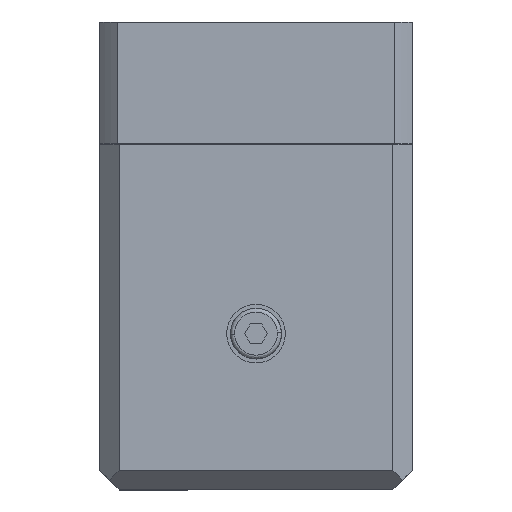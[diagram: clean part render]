
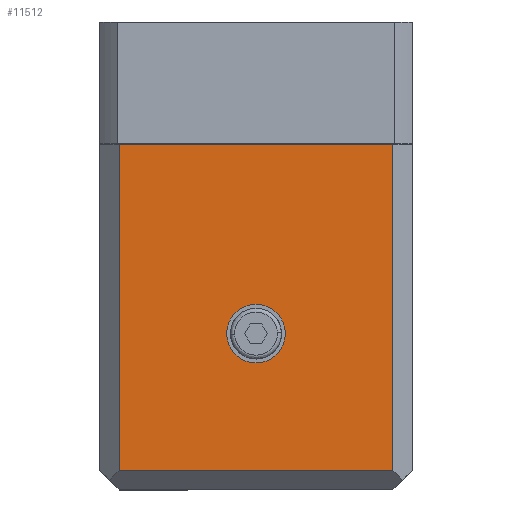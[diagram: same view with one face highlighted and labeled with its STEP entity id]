
A CAD part, left-side view. The second image highlights one B-rep face of the part: STEP entity #11512.
In plain terms, the highlighted planar face has unit normal (-1, 0, 0).
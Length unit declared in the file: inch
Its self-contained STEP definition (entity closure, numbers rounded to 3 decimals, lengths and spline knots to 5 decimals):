
#89 = VERTEX_POINT ( 'NONE', #3521 ) ;
#193 = DIRECTION ( 'NONE',  ( 0., 0., 1. ) ) ;
#571 = CARTESIAN_POINT ( 'NONE',  ( -7.93307, -1.37795, 0.16732 ) ) ;
#849 = LINE ( 'NONE', #2947, #9201 ) ;
#953 = CARTESIAN_POINT ( 'NONE',  ( -7.93307, 0., 0.29528 ) ) ;
#1261 = CIRCLE ( 'NONE', #6140, 0.29528 ) ;
#1491 = DIRECTION ( 'NONE',  ( -1., 0., 0. ) ) ;
#1614 = ORIENTED_EDGE ( 'NONE', *, *, #6690, .F. ) ;
#2118 = VECTOR ( 'NONE', #3548, 39.37008 ) ;
#2223 = LINE ( 'NONE', #571, #13108 ) ;
#2947 = CARTESIAN_POINT ( 'NONE',  ( -7.93307, 0., -1.37795 ) ) ;
#3062 = ORIENTED_EDGE ( 'NONE', *, *, #10649, .T. ) ;
#3343 = CARTESIAN_POINT ( 'NONE',  ( -7.93307, 1.37795, -1.37795 ) ) ;
#3521 = CARTESIAN_POINT ( 'NONE',  ( -7.93307, 0., -0.29528 ) ) ;
#3548 = DIRECTION ( 'NONE',  ( 0., 1., 0. ) ) ;
#3935 = LINE ( 'NONE', #13295, #12260 ) ;
#4101 = CARTESIAN_POINT ( 'NONE',  ( -7.93307, 0., 0. ) ) ;
#4133 = CARTESIAN_POINT ( 'NONE',  ( -7.93307, -1.37795, -1.37795 ) ) ;
#5034 = LINE ( 'NONE', #5684, #2118 ) ;
#5182 = DIRECTION ( 'NONE',  ( 0., 0., 1. ) ) ;
#5684 = CARTESIAN_POINT ( 'NONE',  ( -7.93307, 0., 1.90551 ) ) ;
#5850 = CIRCLE ( 'NONE', #11858, 0.29528 ) ;
#5867 = VERTEX_POINT ( 'NONE', #11351 ) ;
#5885 = DIRECTION ( 'NONE',  ( 1., 0., 0. ) ) ;
#6140 = AXIS2_PLACEMENT_3D ( 'NONE', #12386, #5885, #13472 ) ;
#6274 = VERTEX_POINT ( 'NONE', #3343 ) ;
#6304 = ORIENTED_EDGE ( 'NONE', *, *, #11232, .T. ) ;
#6583 = EDGE_CURVE ( 'NONE', #8407, #7785, #2223, .T. ) ;
#6690 = EDGE_CURVE ( 'NONE', #7785, #6274, #849, .T. ) ;
#7102 = DIRECTION ( 'NONE',  ( 0., 0., -1. ) ) ;
#7785 = VERTEX_POINT ( 'NONE', #4133 ) ;
#8016 = PLANE ( 'NONE',  #9865 ) ;
#8363 = DIRECTION ( 'NONE',  ( 0., 1., 0. ) ) ;
#8407 = VERTEX_POINT ( 'NONE', #12840 ) ;
#8578 = EDGE_LOOP ( 'NONE', ( #13419, #6304 ) ) ;
#8907 = FACE_OUTER_BOUND ( 'NONE', #8919, .T. ) ;
#8919 = EDGE_LOOP ( 'NONE', ( #9083, #3062, #9970, #1614 ) ) ;
#9015 = EDGE_CURVE ( 'NONE', #9145, #89, #1261, .T. ) ;
#9083 = ORIENTED_EDGE ( 'NONE', *, *, #6583, .F. ) ;
#9111 = DIRECTION ( 'NONE',  ( 0., 0., 1. ) ) ;
#9145 = VERTEX_POINT ( 'NONE', #953 ) ;
#9201 = VECTOR ( 'NONE', #8363, 39.37008 ) ;
#9251 = FACE_BOUND ( 'NONE', #8578, .T. ) ;
#9865 = AXIS2_PLACEMENT_3D ( 'NONE', #13278, #1491, #9111 ) ;
#9970 = ORIENTED_EDGE ( 'NONE', *, *, #13313, .F. ) ;
#10649 = EDGE_CURVE ( 'NONE', #8407, #5867, #5034, .T. ) ;
#11232 = EDGE_CURVE ( 'NONE', #89, #9145, #5850, .T. ) ;
#11351 = CARTESIAN_POINT ( 'NONE',  ( -7.93307, 1.37795, 1.90551 ) ) ;
#11512 = ADVANCED_FACE ( 'NONE', ( #9251, #8907 ), #8016, .T. ) ;
#11690 = DIRECTION ( 'NONE',  ( 1., 0., 0. ) ) ;
#11858 = AXIS2_PLACEMENT_3D ( 'NONE', #4101, #11690, #5182 ) ;
#12260 = VECTOR ( 'NONE', #193, 39.37008 ) ;
#12386 = CARTESIAN_POINT ( 'NONE',  ( -7.93307, 0., 0. ) ) ;
#12840 = CARTESIAN_POINT ( 'NONE',  ( -7.93307, -1.37795, 1.90551 ) ) ;
#13108 = VECTOR ( 'NONE', #7102, 39.37008 ) ;
#13278 = CARTESIAN_POINT ( 'NONE',  ( -7.93307, 0., 0. ) ) ;
#13295 = CARTESIAN_POINT ( 'NONE',  ( -7.93307, 1.37795, 0.16732 ) ) ;
#13313 = EDGE_CURVE ( 'NONE', #6274, #5867, #3935, .T. ) ;
#13419 = ORIENTED_EDGE ( 'NONE', *, *, #9015, .T. ) ;
#13472 = DIRECTION ( 'NONE',  ( 0., 0., 1. ) ) ;
